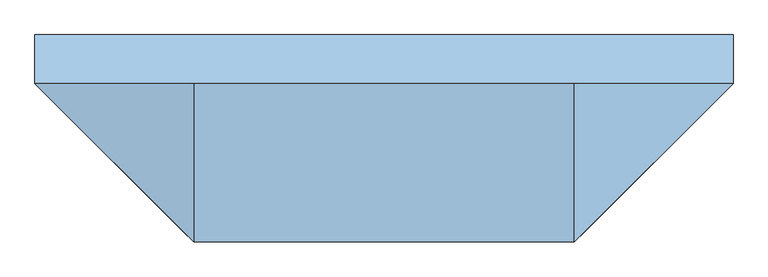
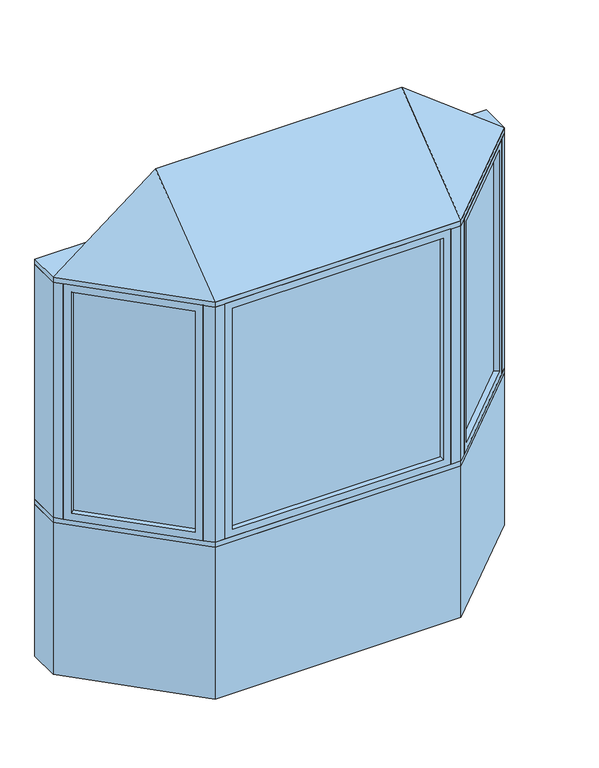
"""IFC4 building model written with IfcOpenShell, lengths in millimetres: window geometry, Pollard_Windows_Tudor Casement Bows and Bays : AML-BAY 45 AFR0512-12-600."""

from ifc_helpers import new_model, si_unit, frame, origin, origin_with_axes, place, context, project, spatial, polyline, outline, extrude, faceted_brep, source, transform, mapped, element, save


def window_49bc2394(model_context):
    return source(origin(), model_context, "Body", "SolidModel", [
        extrude(outline(polyline([(1024.0964271, -104.763169), (628.474814, -500.3847822), (624.8827115, -496.7926797), (1020.5043247, -101.1710666), (1024.0964271, -104.763169)])), frame((0.0, 0.0, 823.1628), z_axis=(0.0, 0.0, 1.0), x_axis=(1.0, 0.0, 0.0)), (0.0, 0.0, 1.0), 1153.6704),
        faceted_brep([(1015.116171, -113.7434252, 835.8628), (1033.0766833, -131.7039374, 835.8628), (1033.0766833, -131.7039374, 1964.1332), (1015.116171, -113.7434252, 1964.1332), (1020.5043247, -101.1710666, 823.1628), (1024.0964271, -104.763169, 823.1628), (1024.0964271, -104.763169, 1976.8332), (1020.5043247, -101.1710666, 1976.8332), (993.5635563, -92.1908105, 835.8628), (1011.5240686, -110.1513227, 835.8628), (1011.5240686, -110.1513227, 1964.1332), (993.5635563, -92.1908105, 1964.1332), (1058.4369265, -106.3436941, 799.998), (1018.9237996, -66.8305672, 799.998), (1018.9237996, -66.8305672, 1999.998), (1058.4369265, -106.3436941, 1999.998), (655.4155823, -509.3650383, 1964.1332), (637.4550701, -491.4045261, 1964.1332), (628.474814, -500.3847822, 1976.8332), (624.8827115, -496.7926797, 1976.8332), (633.8629677, -487.8124236, 1964.1332), (615.9024554, -469.8519114, 1964.1332), (590.5422121, -495.2121547, 1999.998), (630.0553391, -534.7252816, 1999.998), (655.4155823, -509.3650383, 835.8628), (637.4550701, -491.4045261, 835.8628), (628.474814, -500.3847822, 823.1628), (624.8827115, -496.7926797, 823.1628), (633.8629677, -487.8124236, 835.8628), (615.9024554, -469.8519114, 835.8628), (590.5422121, -495.2121547, 799.998), (630.0553391, -534.7252816, 799.998)], [[[0, 1, 2, 3]], [[4, 5, 6, 7]], [[8, 9, 10, 11]], [[12, 13, 14, 15]], [[3, 2, 16, 17]], [[7, 6, 18, 19]], [[11, 10, 20, 21]], [[15, 14, 22, 23]], [[17, 16, 24, 25]], [[19, 18, 26, 27]], [[21, 20, 28, 29]], [[23, 22, 30, 31]], [[25, 24, 1, 0]], [[5, 26, 18, 6], [3, 17, 25, 0]], [[27, 26, 5, 4]], [[7, 19, 27, 4], [9, 28, 20, 10]], [[29, 28, 9, 8]], [[13, 30, 22, 14], [11, 21, 29, 8]], [[31, 30, 13, 12]], [[15, 23, 31, 12], [1, 24, 16, 2]]]),
        extrude(outline(polyline([(-628.474814, -500.3847822), (-1024.0964271, -104.763169), (-1020.5043247, -101.1710666), (-624.8827115, -496.7926797), (-628.474814, -500.3847822)])), frame((0.0, 0.0, 823.1628), z_axis=(0.0, 0.0, 1.0), x_axis=(1.0, 0.0, 0.0)), (0.0, 0.0, 1.0), 1153.6704),
        faceted_brep([(-633.8629677, -487.8124236, 1964.1332), (-615.9024554, -469.8519114, 1964.1332), (-615.9024554, -469.8519114, 835.8628), (-633.8629677, -487.8124236, 835.8628), (-628.474814, -500.3847822, 1976.8332), (-624.8827115, -496.7926797, 1976.8332), (-624.8827115, -496.7926797, 823.1628), (-628.474814, -500.3847822, 823.1628), (-655.4155823, -509.3650383, 1964.1332), (-637.4550701, -491.4045261, 1964.1332), (-637.4550701, -491.4045261, 835.8628), (-655.4155823, -509.3650383, 835.8628), (-590.5422121, -495.2121547, 1999.998), (-630.0553391, -534.7252816, 1999.998), (-630.0553391, -534.7252816, 799.998), (-590.5422121, -495.2121547, 799.998), (-993.5635563, -92.1908105, 835.8628), (-1011.5240686, -110.1513227, 835.8628), (-1020.5043247, -101.1710666, 823.1628), (-1024.0964271, -104.763169, 823.1628), (-1015.116171, -113.7434252, 835.8628), (-1033.0766833, -131.7039374, 835.8628), (-1058.4369265, -106.3436941, 799.998), (-1018.9237996, -66.8305672, 799.998), (-993.5635563, -92.1908105, 1964.1332), (-1011.5240686, -110.1513227, 1964.1332), (-1020.5043247, -101.1710666, 1976.8332), (-1024.0964271, -104.763169, 1976.8332), (-1015.116171, -113.7434252, 1964.1332), (-1033.0766833, -131.7039374, 1964.1332), (-1058.4369265, -106.3436941, 1999.998), (-1018.9237996, -66.8305672, 1999.998)], [[[0, 1, 2, 3]], [[4, 5, 6, 7]], [[8, 9, 10, 11]], [[12, 13, 14, 15]], [[3, 2, 16, 17]], [[7, 6, 18, 19]], [[11, 10, 20, 21]], [[15, 14, 22, 23]], [[17, 16, 24, 25]], [[19, 18, 26, 27]], [[21, 20, 28, 29]], [[23, 22, 30, 31]], [[15, 23, 31, 12], [1, 24, 16, 2]], [[25, 24, 1, 0]], [[5, 26, 18, 6], [3, 17, 25, 0]], [[27, 26, 5, 4]], [[7, 19, 27, 4], [9, 28, 20, 10]], [[29, 28, 9, 8]], [[13, 30, 22, 14], [11, 21, 29, 8]], [[31, 30, 13, 12]]]),
        extrude(outline(polyline([(521.5352, -544.6806207), (-521.5352, -544.6806207), (-521.5352, -539.6006207), (521.5352, -539.6006207), (521.5352, -544.6806207)])), frame((0.0, 0.0, 823.1628), z_axis=(0.0, 0.0, 1.0), x_axis=(1.0, 0.0, 0.0)), (0.0, 0.0, 1.0), 1153.6704),
        faceted_brep([(508.8352, -544.6806207, 835.8628), (508.8352, -570.0806207, 835.8628), (508.8352, -570.0806207, 1964.1332), (508.8352, -544.6806207, 1964.1332), (521.5352, -539.6006207, 823.1628), (521.5352, -544.6806207, 823.1628), (521.5352, -544.6806207, 1976.8332), (521.5352, -539.6006207, 1976.8332), (508.8352, -514.2006207, 835.8628), (508.8352, -539.6006207, 835.8628), (508.8352, -539.6006207, 1964.1332), (508.8352, -514.2006207, 1964.1332), (544.7, -570.0806207, 799.998), (544.7, -514.2006207, 799.998), (544.7, -514.2006207, 1999.998), (544.7, -570.0806207, 1999.998), (-508.8352, -570.0806207, 1964.1332), (-508.8352, -544.6806207, 1964.1332), (-521.5352, -544.6806207, 1976.8332), (-521.5352, -539.6006207, 1976.8332), (-508.8352, -539.6006207, 1964.1332), (-508.8352, -514.2006207, 1964.1332), (-544.7, -514.2006207, 1999.998), (-544.7, -570.0806207, 1999.998), (-508.8352, -570.0806207, 835.8628), (-508.8352, -544.6806207, 835.8628), (-521.5352, -544.6806207, 823.1628), (-521.5352, -539.6006207, 823.1628), (-508.8352, -539.6006207, 835.8628), (-508.8352, -514.2006207, 835.8628), (-544.7, -514.2006207, 799.998), (-544.7, -570.0806207, 799.998)], [[[0, 1, 2, 3]], [[4, 5, 6, 7]], [[8, 9, 10, 11]], [[12, 13, 14, 15]], [[3, 2, 16, 17]], [[7, 6, 18, 19]], [[11, 10, 20, 21]], [[15, 14, 22, 23]], [[17, 16, 24, 25]], [[19, 18, 26, 27]], [[21, 20, 28, 29]], [[23, 22, 30, 31]], [[15, 23, 31, 12], [1, 24, 16, 2]], [[25, 24, 1, 0]], [[5, 26, 18, 6], [3, 17, 25, 0]], [[27, 26, 5, 4]], [[7, 19, 27, 4], [9, 28, 20, 10]], [[29, 28, 9, 8]], [[13, 30, 22, 14], [11, 21, 29, 8]], [[31, 30, 13, 12]]]),
        faceted_brep([(1090.0, -74.7806207, 2025.398), (594.7, -570.0806207, 2025.398), (-594.7, -570.0806207, 2025.398), (-1090.0, -74.7806207, 2025.398), (-594.7, -74.7806207, 2406.398), (594.7, -74.7806207, 2406.398)], [[[0, 1, 2, 3]], [[3, 2, 4]], [[2, 1, 5, 4]], [[1, 0, 5]], [[0, 3, 4, 5]]]),
        extrude(outline(polyline([(-1090.0, 77.6193793), (1090.0, 77.6193793), (1090.0, -74.7806207), (594.7, -570.0806207), (-594.7, -570.0806207), (-1090.0, -74.7806207), (-1090.0, 77.6193793)])), frame((0.0, 0.0, 1999.998), z_axis=(0.0, 0.0, 1.0), x_axis=(1.0, 0.0, 0.0)), (0.0, 0.0, 1.0), 25.4),
        extrude(outline(polyline([(-1090.0, -74.7806207), (-1090.0, 77.6193793), (-1026.8738531, 77.6193793), (-1026.8738531, -74.7806207), (-1058.4369265, -106.3436941), (-1090.0, -74.7806207)])), frame((0.0, 0.0, 799.998), z_axis=(0.0, 0.0, 1.0), x_axis=(1.0, 0.0, 0.0)), (0.0, 0.0, 1.0), 1200.0),
        extrude(outline(polyline([(1090.0, 77.6193793), (1090.0, -74.7806207), (1058.4369265, -106.3436941), (1026.8738531, -74.7806207), (1026.8738531, 77.6193793), (1090.0, 77.6193793)])), frame((0.0, 0.0, 799.998), z_axis=(0.0, 0.0, 1.0), x_axis=(1.0, 0.0, 0.0)), (0.0, 0.0, 1.0), 1200.0),
        extrude(outline(polyline([(594.7, -570.0806207), (544.7, -570.0806207), (544.7, -520.0806207), (573.9893219, -520.0806207), (594.7, -499.3699425), (630.0553391, -534.7252816), (594.7, -570.0806207)])), frame((0.0, 0.0, 799.998), z_axis=(0.0, 0.0, 1.0), x_axis=(1.0, 0.0, 0.0)), (0.0, 0.0, 1.0), 1200.0),
        extrude(outline(polyline([(-594.7, -570.0806207), (-630.0553391, -534.7252816), (-594.7, -499.3699425), (-573.9893219, -520.0806207), (-544.7, -520.0806207), (-544.7, -570.0806207), (-594.7, -570.0806207)])), frame((0.0, 0.0, 799.998), z_axis=(0.0, 0.0, 1.0), x_axis=(1.0, 0.0, 0.0)), (0.0, 0.0, 1.0), 1200.0),
        extrude(outline(polyline([(-594.7, -570.0806207), (-1090.0, -74.7806207), (-1090.0, 77.6193793), (-1026.8738531, 77.6193793), (-531.5738531, -417.6806207), (531.5738531, -417.6806207), (1026.8738531, 77.6193793), (1090.0, 77.6193793), (1090.0, -74.7806207), (594.7, -570.0806207), (-594.7, -570.0806207)])), frame((0.0, 0.0, 774.598), z_axis=(0.0, 0.0, 1.0), x_axis=(1.0, 0.0, 0.0)), (0.0, 0.0, 1.0), 25.4),
        extrude(outline(polyline([(-1090.0, -74.7806207), (-1090.0, 77.6193793), (-1026.8738531, 77.6193793), (-531.5738531, -417.6806207), (531.5738531, -417.6806207), (1026.8738531, 77.6193793), (1090.0, 77.6193793), (1090.0, -74.7806207), (594.7, -570.0806207), (-594.7, -570.0806207), (-1090.0, -74.7806207)])), origin_with_axes(), (0.0, 0.0, 1.0), 774.598),
    ])


if __name__ == "__main__":
    model = new_model("IFC4")
    model_context = context("Model", 3, world=origin())
    ifc_project = project(units=[si_unit("LENGTHUNIT", "METRE", prefix="MILLI")], contexts=[model_context])
    site = spatial("IfcSite", under=ifc_project)
    building = spatial("IfcBuilding", under=site)
    placement = place(None, origin())
    window_shape = window_49bc2394(model_context)
    element("IfcWindow", 1, ObjectType="Pollard_Windows_Tudor Casement Bows and Bays : AML-BAY 45 AFR0512-12-600", at=placement, inside=building, context=model_context, shape_type="MappedRepresentation", body=[
        mapped(window_shape, transform((0.0, 0.0, 0.0), x_axis=(1.0, 0.0, 0.0), y_axis=(0.0, 1.0, 0.0), z_axis=(0.0, 0.0, 1.0))),
    ])
    save(model, "model.ifc")
